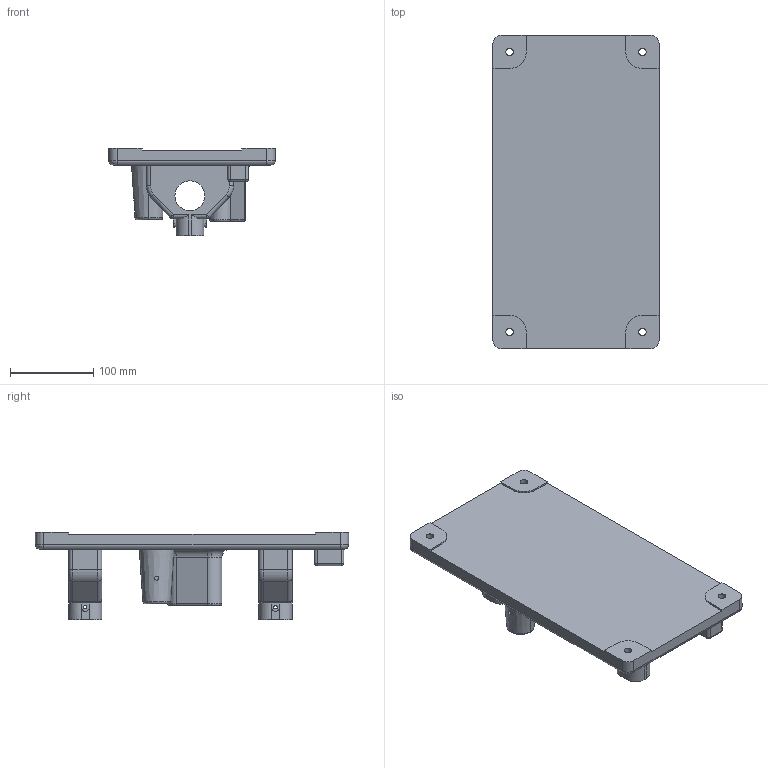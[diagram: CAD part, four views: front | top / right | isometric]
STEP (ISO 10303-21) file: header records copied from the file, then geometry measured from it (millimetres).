
FILE_DESCRIPTION (( 'STEP AP203' ), '1' );
FILE_NAME ('ïàòðîííàÿ ìàøèíà îñíîâàíèå.STEP', '2025-02-10T09:07:35', ( '' ), ( '' ), 'SwSTEP 2.0', 'SolidWorks 2021', '' );
FILE_SCHEMA (( 'CONFIG_CONTROL_DESIGN' ));
Length unit declared in the file: millimetre
Products named in the file (5): 132.1; 132.4; ôëàíåö ïîä âòóëêó; ïàòðîííàÿ ìàøèíà îñíîâàíèå; 132.5
Assembly tree (5 placements, depth 2):
  ïàòðîííàÿ ìàøèíà îñíîâàíèå
    132.1
    ôëàíåö ïîä âòóëêó  x2
    132.5
    132.4
Bounding box: 200 x 377 x 105 mm (x, y, z)
Volume: 1938838 mm3; surface area: 263695.7 mm2
Topology: 5 solids, 5 shells, 224 faces, 547 edges, 328 vertices
Faces by surface type: cylinder 111, plane 71, torus 20, sphere 12, cone 10
Entity records: 5674 total; most frequent: CARTESIAN_POINT 1164, DIRECTION 901, ORIENTED_EDGE 782, EDGE_CURVE 391, AXIS2_PLACEMENT_3D 351, VERTEX_POINT 240, VECTOR 199, LINE 199
